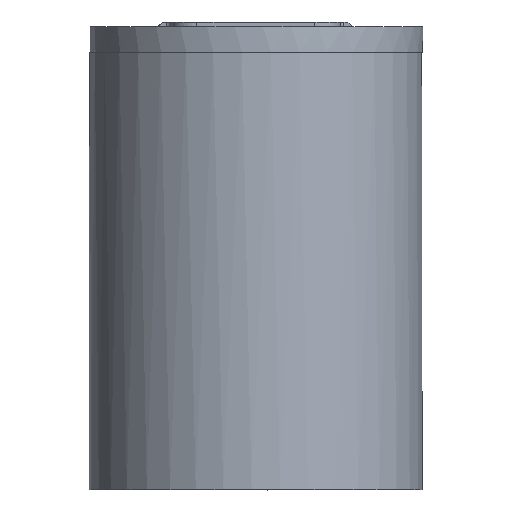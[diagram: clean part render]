
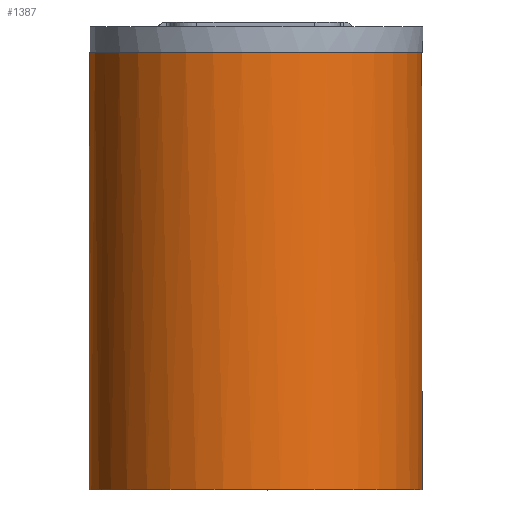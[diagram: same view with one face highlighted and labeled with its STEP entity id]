
A CAD part, top view. The second image highlights one B-rep face of the part: STEP entity #1387.
In plain terms, the highlighted cylindrical face has radius 65 mm (diameter 130 mm), a full revolution.
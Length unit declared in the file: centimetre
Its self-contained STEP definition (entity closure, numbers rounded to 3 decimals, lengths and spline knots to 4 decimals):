
#17=B_SPLINE_CURVE_WITH_KNOTS('',3,(#2259,#2260,#2261,#2262,#2263,#2264,
#2265,#2266,#2267,#2268,#2269,#2270,#2271,#2272,#2273,#2274,#2275,#2276,
#2277,#2278,#2279,#2280,#2281,#2282,#2283,#2284),.UNSPECIFIED.,.F.,.F.,
(4,2,2,2,2,2,2,2,2,2,2,2,4),(2.2689,2.5526,2.8362,
3.4034,3.9706,4.2543,4.5379,4.8215,
5.1052,5.6724,6.2396,6.5232,6.8068),
 .UNSPECIFIED.);
#18=B_SPLINE_CURVE_WITH_KNOTS('',3,(#2285,#2286,#2287,#2288,#2289,#2290,
#2291,#2292,#2293,#2294,#2295,#2296,#2297,#2298,#2299,#2300,#2301,#2302,
#2303,#2304,#2305,#2306,#2307,#2308,#2309,#2310,#2311),.UNSPECIFIED.,.F.,
 .F.,(4,2,2,2,2,2,3,2,2,2,2,2,4),(6.8068,7.0905,7.3741,
7.9413,8.5085,8.7922,9.0758,9.3594,
9.6431,10.2103,10.7775,11.0611,11.3447),
 .UNSPECIFIED.);
#221=CYLINDRICAL_SURFACE('',#1530,6.5);
#268=FACE_BOUND('',#427,.T.);
#269=FACE_BOUND('',#428,.T.);
#302=FACE_OUTER_BOUND('',#426,.T.);
#426=EDGE_LOOP('',(#974));
#427=EDGE_LOOP('',(#975,#976));
#428=EDGE_LOOP('',(#977,#978));
#541=CIRCLE('',#1502,6.5);
#550=CIRCLE('',#1514,6.5);
#558=CIRCLE('',#1531,6.5);
#629=VERTEX_POINT('',#2189);
#630=VERTEX_POINT('',#2190);
#642=VERTEX_POINT('',#2257);
#643=VERTEX_POINT('',#2258);
#649=VERTEX_POINT('',#2328);
#750=EDGE_CURVE('',#629,#630,#541,.T.);
#762=EDGE_CURVE('',#630,#629,#550,.T.);
#766=EDGE_CURVE('',#642,#643,#17,.T.);
#767=EDGE_CURVE('',#643,#642,#18,.T.);
#773=EDGE_CURVE('',#649,#649,#558,.T.);
#974=ORIENTED_EDGE('',*,*,#773,.F.);
#975=ORIENTED_EDGE('',*,*,#766,.T.);
#976=ORIENTED_EDGE('',*,*,#767,.T.);
#977=ORIENTED_EDGE('',*,*,#750,.T.);
#978=ORIENTED_EDGE('',*,*,#762,.T.);
#1387=ADVANCED_FACE('',(#302,#268,#269),#221,.T.);
#1502=AXIS2_PLACEMENT_3D('',#2191,#1711,#1712);
#1514=AXIS2_PLACEMENT_3D('',#2214,#1738,#1739);
#1530=AXIS2_PLACEMENT_3D('',#2327,#1770,#1771);
#1531=AXIS2_PLACEMENT_3D('',#2329,#1772,#1773);
#1711=DIRECTION('center_axis',(0.,-1.,0.));
#1712=DIRECTION('ref_axis',(0.,0.,1.));
#1738=DIRECTION('center_axis',(0.,-1.,0.));
#1739=DIRECTION('ref_axis',(0.,0.,1.));
#1770=DIRECTION('center_axis',(0.,-1.,0.));
#1771=DIRECTION('ref_axis',(0.,0.,-1.));
#1772=DIRECTION('center_axis',(0.,-1.,0.));
#1773=DIRECTION('ref_axis',(0.,0.,-1.));
#2189=CARTESIAN_POINT('',(-4.5973,0.,-4.595));
#2190=CARTESIAN_POINT('',(4.6248,0.,4.5674));
#2191=CARTESIAN_POINT('Origin',(0.,0.,0.));
#2214=CARTESIAN_POINT('Origin',(0.,0.,0.));
#2257=CARTESIAN_POINT('',(0.,-0.2,-6.5));
#2258=CARTESIAN_POINT('',(0.,-3.2,-6.5));
#2259=CARTESIAN_POINT('Ctrl Pts',(0.,-0.2,
-6.5));
#2260=CARTESIAN_POINT('Ctrl Pts',(-0.0945,-0.2,
-6.5));
#2261=CARTESIAN_POINT('Ctrl Pts',(-0.1922,-0.2091,
-6.4979));
#2262=CARTESIAN_POINT('Ctrl Pts',(-0.3862,-0.2472,
-6.4892));
#2263=CARTESIAN_POINT('Ctrl Pts',(-0.4826,-0.2762,
-6.4827));
#2264=CARTESIAN_POINT('Ctrl Pts',(-0.7597,-0.3912,
-6.4581));
#2265=CARTESIAN_POINT('Ctrl Pts',(-0.9279,-0.5066,
-6.4348));
#2266=CARTESIAN_POINT('Ctrl Pts',(-1.1935,-0.7721,
-6.3909));
#2267=CARTESIAN_POINT('Ctrl Pts',(-1.3088,-0.9404,
-6.3674));
#2268=CARTESIAN_POINT('Ctrl Pts',(-1.4237,-1.2174,-6.3423));
#2269=CARTESIAN_POINT('Ctrl Pts',(-1.4528,-1.3138,-6.3356));
#2270=CARTESIAN_POINT('Ctrl Pts',(-1.4909,-1.5078,-6.3267));
#2271=CARTESIAN_POINT('Ctrl Pts',(-1.5,-1.6055,-6.3246));
#2272=CARTESIAN_POINT('Ctrl Pts',(-1.5,-1.7945,-6.3246));
#2273=CARTESIAN_POINT('Ctrl Pts',(-1.4909,-1.8922,-6.3267));
#2274=CARTESIAN_POINT('Ctrl Pts',(-1.4528,-2.0862,-6.3356));
#2275=CARTESIAN_POINT('Ctrl Pts',(-1.4237,-2.1826,-6.3423));
#2276=CARTESIAN_POINT('Ctrl Pts',(-1.3088,-2.4596,-6.3674));
#2277=CARTESIAN_POINT('Ctrl Pts',(-1.1935,-2.6279,-6.3909));
#2278=CARTESIAN_POINT('Ctrl Pts',(-0.9279,-2.8934,-6.4348));
#2279=CARTESIAN_POINT('Ctrl Pts',(-0.7597,-3.0088,
-6.4581));
#2280=CARTESIAN_POINT('Ctrl Pts',(-0.4826,-3.1238,
-6.4827));
#2281=CARTESIAN_POINT('Ctrl Pts',(-0.3862,-3.1528,
-6.4892));
#2282=CARTESIAN_POINT('Ctrl Pts',(-0.1922,-3.1909,
-6.4979));
#2283=CARTESIAN_POINT('Ctrl Pts',(-0.0945,-3.2,
-6.5));
#2284=CARTESIAN_POINT('Ctrl Pts',(0.,-3.2,
-6.5));
#2285=CARTESIAN_POINT('Ctrl Pts',(0.,-3.2,
-6.5));
#2286=CARTESIAN_POINT('Ctrl Pts',(0.0945,-3.2,
-6.5));
#2287=CARTESIAN_POINT('Ctrl Pts',(0.1922,-3.1909,-6.4979));
#2288=CARTESIAN_POINT('Ctrl Pts',(0.3862,-3.1528,-6.4892));
#2289=CARTESIAN_POINT('Ctrl Pts',(0.4826,-3.1238,-6.4827));
#2290=CARTESIAN_POINT('Ctrl Pts',(0.7597,-3.0088,-6.4581));
#2291=CARTESIAN_POINT('Ctrl Pts',(0.9279,-2.8934,-6.4348));
#2292=CARTESIAN_POINT('Ctrl Pts',(1.1935,-2.6279,-6.3909));
#2293=CARTESIAN_POINT('Ctrl Pts',(1.3088,-2.4596,-6.3674));
#2294=CARTESIAN_POINT('Ctrl Pts',(1.4237,-2.1826,-6.3423));
#2295=CARTESIAN_POINT('Ctrl Pts',(1.4528,-2.0862,-6.3356));
#2296=CARTESIAN_POINT('Ctrl Pts',(1.4909,-1.8922,-6.3267));
#2297=CARTESIAN_POINT('Ctrl Pts',(1.5,-1.7945,-6.3246));
#2298=CARTESIAN_POINT('Ctrl Pts',(1.5,-1.7,-6.3246));
#2299=CARTESIAN_POINT('Ctrl Pts',(1.5,-1.6055,-6.3246));
#2300=CARTESIAN_POINT('Ctrl Pts',(1.4909,-1.5078,-6.3267));
#2301=CARTESIAN_POINT('Ctrl Pts',(1.4528,-1.3138,-6.3356));
#2302=CARTESIAN_POINT('Ctrl Pts',(1.4237,-1.2174,-6.3423));
#2303=CARTESIAN_POINT('Ctrl Pts',(1.3088,-0.9404,-6.3674));
#2304=CARTESIAN_POINT('Ctrl Pts',(1.1935,-0.7721,-6.3909));
#2305=CARTESIAN_POINT('Ctrl Pts',(0.9279,-0.5066,-6.4348));
#2306=CARTESIAN_POINT('Ctrl Pts',(0.7597,-0.3912,
-6.4581));
#2307=CARTESIAN_POINT('Ctrl Pts',(0.4826,-0.2762,
-6.4827));
#2308=CARTESIAN_POINT('Ctrl Pts',(0.3862,-0.2472,
-6.4892));
#2309=CARTESIAN_POINT('Ctrl Pts',(0.1922,-0.2091,
-6.4979));
#2310=CARTESIAN_POINT('Ctrl Pts',(0.0945,-0.2,
-6.5));
#2311=CARTESIAN_POINT('Ctrl Pts',(0.,-0.2,
-6.5));
#2327=CARTESIAN_POINT('Origin',(0.,-8.,0.));
#2328=CARTESIAN_POINT('',(-6.5,-17.05,0.));
#2329=CARTESIAN_POINT('Origin',(0.,-17.05,
0.));
